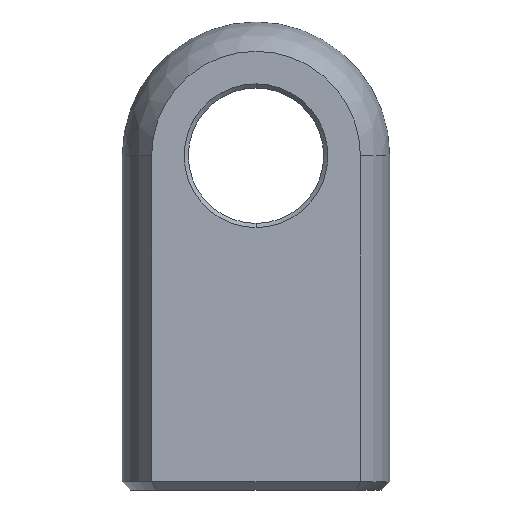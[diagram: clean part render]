
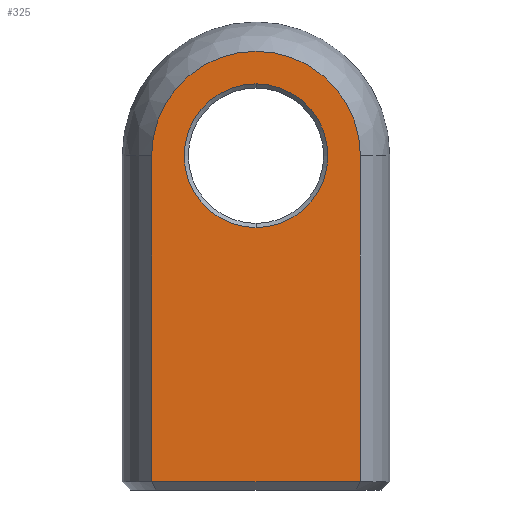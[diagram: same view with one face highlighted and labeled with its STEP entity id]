
A CAD part, front view. The second image highlights one B-rep face of the part: STEP entity #325.
In plain terms, the highlighted planar face has unit normal (0, -1, 0).
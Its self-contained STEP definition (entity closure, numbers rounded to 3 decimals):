
#9 = PLANE ( 'NONE',  #211 ) ;
#22 = CARTESIAN_POINT ( 'NONE',  ( 6.245, -5., 0.5 ) ) ;
#64 = VERTEX_POINT ( 'NONE', #560 ) ;
#69 = DIRECTION ( 'NONE',  ( 0., 1., 0. ) ) ;
#85 = DIRECTION ( 'NONE',  ( 0., 1., 0. ) ) ;
#86 = CIRCLE ( 'NONE', #283, 6.245 ) ;
#134 = CARTESIAN_POINT ( 'NONE',  ( 0., -5., 20. ) ) ;
#135 = CARTESIAN_POINT ( 'NONE',  ( -6.245, -5., 0. ) ) ;
#164 = ORIENTED_EDGE ( 'NONE', *, *, #426, .T. ) ;
#165 = ORIENTED_EDGE ( 'NONE', *, *, #686, .T. ) ;
#173 = EDGE_LOOP ( 'NONE', ( #462, #531 ) ) ;
#190 = VERTEX_POINT ( 'NONE', #692 ) ;
#193 = DIRECTION ( 'NONE',  ( 0., 0., -1. ) ) ;
#195 = AXIS2_PLACEMENT_3D ( 'NONE', #134, #69, #467 ) ;
#211 = AXIS2_PLACEMENT_3D ( 'NONE', #538, #697, #242 ) ;
#236 = AXIS2_PLACEMENT_3D ( 'NONE', #310, #85, #370 ) ;
#242 = DIRECTION ( 'NONE',  ( 1., 0., 0. ) ) ;
#246 = VERTEX_POINT ( 'NONE', #699 ) ;
#251 = EDGE_CURVE ( 'NONE', #346, #64, #725, .T. ) ;
#270 = FACE_OUTER_BOUND ( 'NONE', #564, .T. ) ;
#283 = AXIS2_PLACEMENT_3D ( 'NONE', #549, #602, #651 ) ;
#296 = EDGE_CURVE ( 'NONE', #447, #190, #580, .T. ) ;
#306 = CIRCLE ( 'NONE', #236, 4.3 ) ;
#307 = CARTESIAN_POINT ( 'NONE',  ( 0., -5., 24.3 ) ) ;
#308 = VECTOR ( 'NONE', #480, 1000. ) ;
#310 = CARTESIAN_POINT ( 'NONE',  ( 0., -5., 20. ) ) ;
#325 = ADVANCED_FACE ( 'NONE', ( #341, #270 ), #9, .T. ) ;
#335 = ORIENTED_EDGE ( 'NONE', *, *, #251, .T. ) ;
#338 = EDGE_CURVE ( 'NONE', #440, #346, #660, .T. ) ;
#341 = FACE_BOUND ( 'NONE', #173, .T. ) ;
#346 = VERTEX_POINT ( 'NONE', #22 ) ;
#366 = LINE ( 'NONE', #135, #509 ) ;
#370 = DIRECTION ( 'NONE',  ( 1., 0., 0. ) ) ;
#410 = CARTESIAN_POINT ( 'NONE',  ( 5.59, -5., 0.5 ) ) ;
#420 = EDGE_CURVE ( 'NONE', #190, #447, #306, .T. ) ;
#426 = EDGE_CURVE ( 'NONE', #64, #246, #86, .T. ) ;
#440 = VERTEX_POINT ( 'NONE', #482 ) ;
#447 = VERTEX_POINT ( 'NONE', #307 ) ;
#462 = ORIENTED_EDGE ( 'NONE', *, *, #420, .T. ) ;
#467 = DIRECTION ( 'NONE',  ( 1., 0., 0. ) ) ;
#473 = DIRECTION ( 'NONE',  ( 1., 0., 0. ) ) ;
#480 = DIRECTION ( 'NONE',  ( 0., 0., 1. ) ) ;
#482 = CARTESIAN_POINT ( 'NONE',  ( -6.245, -5., 0.5 ) ) ;
#496 = ORIENTED_EDGE ( 'NONE', *, *, #338, .T. ) ;
#509 = VECTOR ( 'NONE', #193, 1000. ) ;
#513 = VECTOR ( 'NONE', #473, 1000. ) ;
#531 = ORIENTED_EDGE ( 'NONE', *, *, #296, .T. ) ;
#538 = CARTESIAN_POINT ( 'NONE',  ( 14.25, -5., 0. ) ) ;
#549 = CARTESIAN_POINT ( 'NONE',  ( 0., -5., 20. ) ) ;
#560 = CARTESIAN_POINT ( 'NONE',  ( 6.245, -5., 20. ) ) ;
#564 = EDGE_LOOP ( 'NONE', ( #165, #496, #335, #164 ) ) ;
#580 = CIRCLE ( 'NONE', #195, 4.3 ) ;
#602 = DIRECTION ( 'NONE',  ( 0., -1., 0. ) ) ;
#635 = CARTESIAN_POINT ( 'NONE',  ( 6.245, -5., 0. ) ) ;
#651 = DIRECTION ( 'NONE',  ( 1., 0., 0. ) ) ;
#660 = LINE ( 'NONE', #410, #513 ) ;
#686 = EDGE_CURVE ( 'NONE', #246, #440, #366, .T. ) ;
#692 = CARTESIAN_POINT ( 'NONE',  ( 0., -5., 15.7 ) ) ;
#697 = DIRECTION ( 'NONE',  ( 0., -1., 0. ) ) ;
#699 = CARTESIAN_POINT ( 'NONE',  ( -6.245, -5., 20. ) ) ;
#725 = LINE ( 'NONE', #635, #308 ) ;
